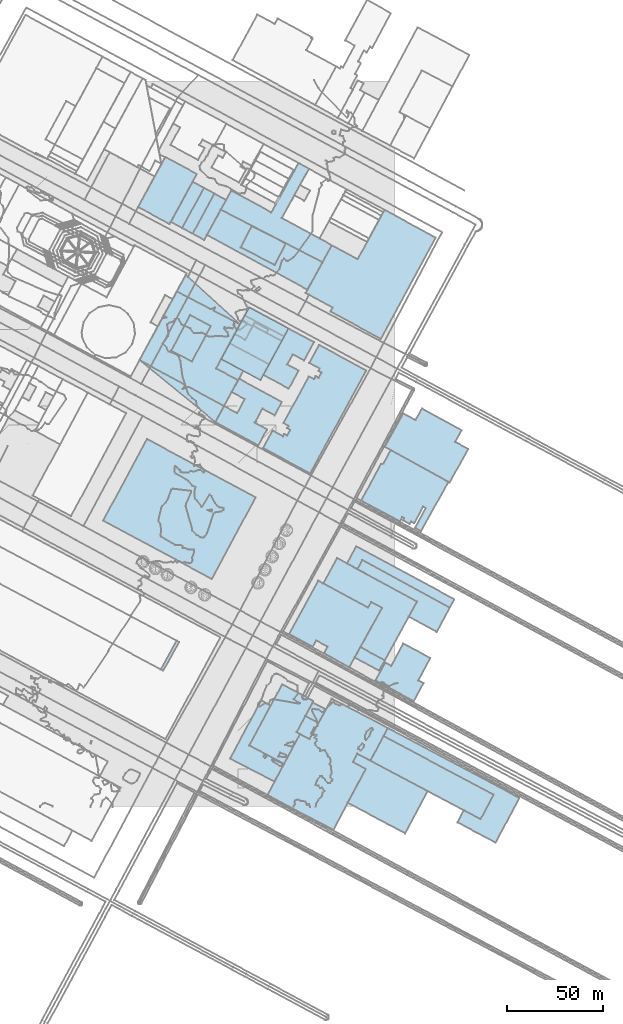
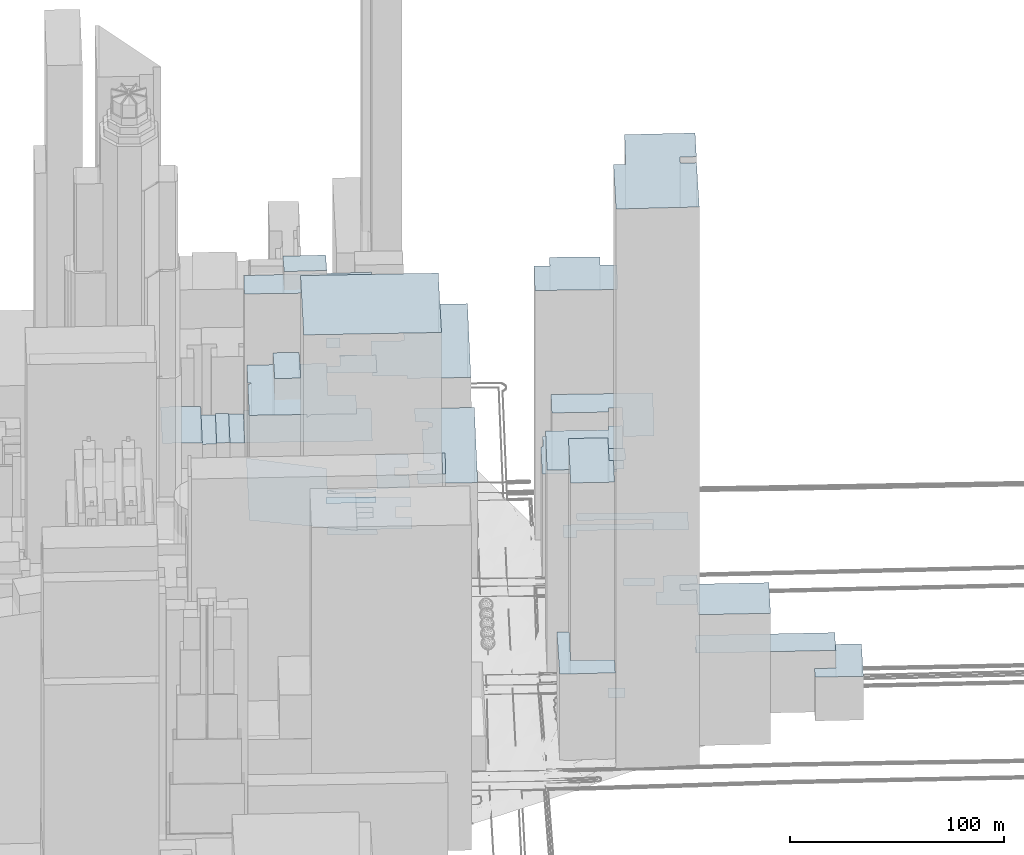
# Not in any storey, part 42 of 76: 39 roofs.
"""IFC2X3 model written with IfcOpenShell, lengths in metres."""

from ifc_helpers import new_model, si_unit, frame, origin_with_axes, place, context, subcontext, project, faceted_brep, element, save


model = new_model("IFC2X3")

# Units and contexts
model_context = context("Model", 3, precision=1e-05, world=origin_with_axes())
body_context = subcontext(model_context, "Body", "Model", "MODEL_VIEW")
ifc_project = project(units=[si_unit("AREAUNIT", "SQUARE_METRE"), si_unit("LENGTHUNIT", "METRE")], contexts=[model_context])

# Roofs
roof_1_placement = place(None, frame((366.2645429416, 36.6542156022, 20.5453743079), z_axis=(0.0, 0.0, 1.0), x_axis=(1.0, 0.0, 0.0)))
element("IfcRoof", 1, at=roof_1_placement, Name="Toiture 0", ShapeType="NOTDEFINED", context=body_context, shape_type="Brep", body=[
    faceted_brep([(2.2468139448, 4.2339315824, 25.0), (0.0, 0.0, 25.0), (57.6510256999, -30.6476367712, 25.0), (50.7770092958, -43.4731624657, 25.0), (41.9344578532, -38.7800531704, 25.0), (38.741565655, -45.1344526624, 25.0), (71.0847208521, -32.3451003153, 25.0), (58.6609342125, -55.7269742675, 25.0)], [[[0, 1, 2]], [[3, 4, 5]], [[6, 0, 2]], [[3, 5, 7]], [[7, 6, 2]], [[2, 3, 7]]]),
])
roof_2_placement = place(None, frame((351.223740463, 77.768312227, 19.2455414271), z_axis=(0.0, 0.0, 1.0), x_axis=(1.0, 0.0, 0.0)))
element("IfcRoof", 2, at=roof_2_placement, Name="Toiture 0", ShapeType="NOTDEFINED", context=body_context, shape_type="Brep", body=[
    faceted_brep([(2.9670376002, 5.4524630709, 45.0), (0.0, 0.0, 45.0), (12.6918312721, -6.868784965, 45.0), (15.6589919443, -1.4274175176, 45.0)], [[[0, 1, 2]], [[2, 3, 0]]]),
])
roof_3_placement = place(None, frame((362.0676322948, 65.7598579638, 18.6080020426), z_axis=(0.0, 0.0, 1.0), x_axis=(1.0, 0.0, 0.0)))
element("IfcRoof", 3, at=roof_3_placement, Name="Toiture 0", ShapeType="NOTDEFINED", context=body_context, shape_type="Brep", body=[
    faceted_brep([(5.0818940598, 9.4184075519, 38.0999984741), (0.0, 0.0, 38.0999984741), (20.0566144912, -10.8019749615, 38.0999984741), (25.0968062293, -1.4284483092, 38.0999984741), (22.3613697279, 0.0495845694, 38.0999984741), (28.6575999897, 11.7470203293, 38.0999984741), (14.5135056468, 19.3648949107, 38.0999984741), (8.2419351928, 7.7232700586, 38.0999984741)], [[[0, 1, 2]], [[2, 3, 4]], [[4, 5, 6]], [[7, 0, 2]], [[2, 4, 6]], [[6, 7, 2]]]),
])
roof_4_placement = place(None, frame((347.1381641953, 127.0369642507, 18.5508047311), z_axis=(0.0, 0.0, 1.0), x_axis=(1.0, 0.0, 0.0)))
element("IfcRoof", 4, at=roof_4_placement, Name="Toiture 0", ShapeType="NOTDEFINED", context=body_context, shape_type="Brep", body=[
    faceted_brep([(4.9095321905, 8.9945052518, 45.0), (0.0, 0.0, 45.0), (5.3954967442, -3.0124802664, 45.0), (8.0571999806, 1.8369054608, 45.0), (53.8061372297, -23.131939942, 45.0), (56.1693942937, -18.7523097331, 45.0)], [[[0, 1, 2]], [[3, 4, 5]], [[0, 2, 3]], [[3, 5, 0]]]),
])
roof_5_placement = place(None, frame((352.5336609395, 124.0244839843, 18.1637870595), z_axis=(0.0, 0.0, 1.0), x_axis=(1.0, 0.0, 0.0)))
element("IfcRoof", 5, at=roof_5_placement, Name="Toiture 0", ShapeType="NOTDEFINED", context=body_context, shape_type="Brep", body=[
    faceted_brep([(2.6617032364, 4.8493857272, 55.0), (0.0, 0.0, 55.0), (31.2631371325, -16.9997120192, 55.0), (26.9895697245, -24.7877841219, 55.0), (41.5765562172, -32.7446614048, 55.0), (48.4106404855, -20.1194596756, 55.0)], [[[0, 1, 2]], [[2, 3, 4]], [[5, 0, 2]], [[2, 4, 5]]]),
])
roof_6_placement = place(None, frame((334.7408311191, 116.6007819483, 18.3898649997), z_axis=(0.0, 0.0, 1.0), x_axis=(1.0, 0.0, 0.0)))
element("IfcRoof", 6, at=roof_6_placement, Name="Toiture 0", ShapeType="NOTDEFINED", context=body_context, shape_type="Brep", body=[
    faceted_brep([(7.2237486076, 13.24030801, 127.0), (0.0, 0.0, 127.0), (23.4383723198, -12.7055475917, 127.0), (30.6991136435, -12.7874983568, 127.0), (19.4499469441, -33.3800066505, 127.0), (32.1419012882, -40.259887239, 127.0), (25.0583062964, -9.7334756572, 127.0), (49.0559669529, -9.5760099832, 127.0)], [[[0, 1, 2]], [[3, 4, 5]], [[0, 2, 6]], [[3, 5, 7]], [[7, 0, 6]], [[6, 3, 7]]]),
])
roof_7_placement = place(None, frame((316.8661601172, 90.1024902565, 18.3898649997), z_axis=(0.0, 0.0, 1.0), x_axis=(1.0, 0.0, 0.0)))
element("IfcRoof", 7, at=roof_7_placement, Name="Toiture 0", ShapeType="NOTDEFINED", context=body_context, shape_type="Brep", body=[
    faceted_brep([(15.300279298, 27.9227073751, 116.6999969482), (0.0, 0.0, 116.6999969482), (12.2588560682, -6.6629415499, 116.6999969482), (20.1343500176, -6.6156371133, 116.6999969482), (18.1999973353, -10.1353758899, 116.6999969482), (31.5123618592, -17.3744372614, 116.6999969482), (48.5737846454, 13.710793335, 116.6999969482), (42.9329772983, 16.7648160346, 116.6999969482), (14.07724135, -3.3332932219, 116.6999969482), (41.3130433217, 13.7927441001, 116.6999969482)], [[[0, 1, 2]], [[3, 4, 5]], [[5, 6, 7]], [[0, 2, 8]], [[5, 7, 9]], [[9, 0, 8]], [[3, 5, 9]], [[9, 8, 3]]]),
])
roof_8_placement = place(None, frame((325.3175902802, 47.212952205, 19.8238031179), z_axis=(0.0, 0.0, 1.0), x_axis=(1.0, 0.0, 0.0)))
element("IfcRoof", 8, at=roof_8_placement, Name="Toiture 0", ShapeType="NOTDEFINED", context=body_context, shape_type="Brep", body=[
    faceted_brep([(3.893923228, 7.050867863, 8.0), (0.0, 0.0, 8.0), (6.8126112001, -3.6399257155, 8.0), (10.7830119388, 3.3674274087, 8.0)], [[[0, 1, 2]], [[2, 3, 0]]]),
])
roof_9_placement = place(None, frame((320.7317155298, 38.6885317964, 19.3320157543), z_axis=(0.0, 0.0, 1.0), x_axis=(1.0, 0.0, 0.0)))
element("IfcRoof", 9, at=roof_9_placement, Name="Toiture 0", ShapeType="NOTDEFINED", context=body_context, shape_type="Brep", body=[
    faceted_brep([(4.5858747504, 8.5244204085, 151.0), (0.0, 0.0, 151.0), (6.8210570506, -3.6398316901, 151.0), (11.3984859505, 4.884494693, 151.0)], [[[0, 1, 2]], [[2, 3, 0]]]),
])
roof_10_placement = place(None, frame((295.9848400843, 31.8056900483, 19.3320157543), z_axis=(0.0, 0.0, 1.0), x_axis=(1.0, 0.0, 0.0)))
element("IfcRoof", 10, at=roof_10_placement, Name="Toiture 0", ShapeType="NOTDEFINED", context=body_context, shape_type="Brep", body=[
    faceted_brep([(17.2118998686, 31.9639296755, 151.0), (0.0, 0.0, 151.0), (18.152605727, -9.6807885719, 151.0), (26.5646548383, 5.9159065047, 151.0), (24.7468754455, 6.8828417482, 151.0), (33.5466758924, 23.2501167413, 151.0)], [[[0, 1, 2]], [[2, 3, 4]], [[4, 5, 0]], [[0, 2, 4]]]),
])
roof_11_placement = place(None, frame((286.0454970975, 24.8510106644, 18.703520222), z_axis=(0.0, 0.0, 1.0), x_axis=(1.0, 0.0, 0.0)))
element("IfcRoof", 11, at=roof_11_placement, Name="Toiture 0", ShapeType="NOTDEFINED", context=body_context, shape_type="Brep", body=[
    faceted_brep([(0.0, 0.0, 50.0), (23.1269540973, -12.0431954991, 50.0), (28.0919487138, -2.7261091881, 50.0), (9.9393429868, 6.9546793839, 50.0), (21.1440946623, 27.7575168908, 50.0), (16.1055235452, 30.5632428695, 50.0)], [[[0, 1, 2]], [[3, 4, 5]], [[0, 2, 3]], [[3, 5, 0]]]),
])
roof_12_placement = place(None, frame((305.3985923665, 5.5918232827, 19.5472220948), z_axis=(0.0, 0.0, 1.0), x_axis=(1.0, 0.0, 0.0)))
element("IfcRoof", 12, at=roof_12_placement, Name="Toiture 0", ShapeType="NOTDEFINED", context=body_context, shape_type="Brep", body=[
    faceted_brep([(17.1509025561, 32.1297732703, 320.0), (0.0, 0.0, 320.0), (34.6180123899, -17.9933581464, 320.0), (51.5516846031, 13.93412623, 320.0), (44.841101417, 17.5086047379, 320.0), (47.1626007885, 21.8544235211, 320.0), (53.9919956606, 18.2258198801, 320.0), (63.1127645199, 35.296323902, 320.0), (33.8269836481, 50.6537947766, 320.0), (22.1541802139, 29.4568768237, 320.0)], [[[0, 1, 2]], [[2, 3, 4]], [[5, 6, 7]], [[7, 8, 9]], [[9, 0, 2]], [[5, 7, 9]], [[9, 2, 4]], [[4, 5, 9]]]),
])
roof_13_placement = place(None, frame((347.4572556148, 1.796092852, 20.3614833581), z_axis=(0.0, 0.0, 1.0), x_axis=(1.0, 0.0, 0.0)))
element("IfcRoof", 13, at=roof_13_placement, Name="Toiture 0", ShapeType="NOTDEFINED", context=body_context, shape_type="Brep", body=[
    faceted_brep([(9.4930213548, 17.7298566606, 74.8000030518), (0.0, 0.0, 74.8000030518), (30.0699170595, -15.9811361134, 74.8000030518), (41.8928147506, 6.0946882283, 74.8000030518), (5.1039375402, 25.6501539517, 74.8000030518), (2.7824381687, 21.3043351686, 74.8000030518)], [[[0, 1, 2]], [[2, 3, 4]], [[4, 5, 0]], [[0, 2, 4]]]),
])
roof_14_placement = place(None, frame((359.3905880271, 23.8176431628, 20.6359845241), z_axis=(0.0, 0.0, 1.0), x_axis=(1.0, 0.0, 0.0)))
element("IfcRoof", 14, at=roof_14_placement, Name="Toiture 0", ShapeType="NOTDEFINED", context=body_context, shape_type="Brep", body=[
    faceted_brep([(6.8739549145, 12.8365724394, 35.0), (0.0, 0.0, 35.0), (57.6509642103, -30.6365900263, 35.0), (64.5249806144, -17.8110643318, 35.0)], [[[0, 1, 2]], [[2, 3, 0]]]),
])
roof_15_placement = place(None, frame((249.6836035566, 71.5902685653, 39.4467245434), z_axis=(0.0, 0.0, 1.0), x_axis=(1.0, 0.0, 0.0)))
element("IfcRoof", 15, at=roof_15_placement, Name="Toiture 0", ShapeType="NOTDEFINED", context=body_context, shape_type="Brep", body=[
    faceted_brep([(8.3176822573, 15.0071034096, 128.0), (0.0, 0.0, 128.0), (1.2910926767, -0.6844212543, 128.0), (9.6089023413, 14.3115828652, 128.0)], [[[0, 1, 2]], [[2, 3, 0]]]),
])
roof_16_placement = place(None, frame((219.5112298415, 149.4213804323, 19.4237571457), z_axis=(0.0, 0.0, 1.0), x_axis=(1.0, 0.0, 0.0)))
element("IfcRoof", 16, at=roof_16_placement, Name="Toiture 0", ShapeType="NOTDEFINED", context=body_context, shape_type="Brep", body=[
    faceted_brep([(22.9281798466, 42.7328309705, 191.0), (0.0, 0.0, 191.0), (56.8882083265, -30.5132920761, 191.0), (79.8162954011, 12.2086158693, 191.0)], [[[0, 1, 2]], [[2, 3, 0]]]),
])
roof_17_placement = place(None, frame((238.5657352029, 233.4317503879, 16.8303387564), z_axis=(0.0, 0.0, 1.0), x_axis=(1.0, 0.0, 0.0)))
element("IfcRoof", 17, at=roof_17_placement, Name="Toiture 0", ShapeType="NOTDEFINED", context=body_context, shape_type="Brep", body=[
    faceted_brep([(24.1716147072, 44.6569637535, 30.0), (0.0, 0.0, 30.0), (39.6892356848, -32.423071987, 30.0), (54.2336192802, -5.5639508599, 30.0), (42.7234641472, 0.6192596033, 30.0), (52.5160379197, 18.7078011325, 30.0)], [[[0, 1, 2]], [[2, 3, 4]], [[4, 5, 0]], [[0, 2, 4]]]),
])
roof_18_placement = place(None, frame((238.5657352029, 233.4317503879, 16.8288003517), z_axis=(0.0, 0.0, 1.0), x_axis=(1.0, 0.0, 0.0)))
element("IfcRoof", 18, at=roof_18_placement, Name="Toiture 0", ShapeType="NOTDEFINED", context=body_context, shape_type="Brep", body=[
    faceted_brep([(11.841957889, 21.887094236, 90.0), (0.0, 0.0, 90.0), (23.8036133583, -12.9458392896, 90.0), (22.5444502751, -15.0033068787, 90.0), (25.6386092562, -13.9458941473, 90.0), (44.2262175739, -24.0546749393, 90.0), (51.6324175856, -10.5347354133, 90.0), (40.0549929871, -4.3745082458, 90.0), (52.5160379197, 18.7078011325, 90.0), (38.7491765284, 25.8639517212, 90.0), (39.5570742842, 27.5275912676, 90.0), (37.0929847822, 26.7328570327, 90.0), (19.5537404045, 35.9878752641, 90.0), (12.610114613, 23.3393253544, 90.0), (14.2581221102, 22.4481148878, 90.0)], [[[0, 1, 2]], [[2, 3, 4]], [[4, 5, 6]], [[7, 8, 9]], [[9, 10, 11]], [[11, 12, 13]], [[14, 0, 2]], [[2, 4, 6]], [[7, 9, 11]], [[11, 13, 14]], [[2, 6, 7]], [[7, 11, 14]], [[14, 2, 7]]]),
])
roof_19_placement = place(None, frame((255.1464477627, 238.3653204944, 18.4349327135), z_axis=(0.0, 0.0, 1.0), x_axis=(1.0, 0.0, 0.0)))
element("IfcRoof", 19, at=roof_19_placement, Name="Toiture 0", ShapeType="NOTDEFINED", context=body_context, shape_type="Brep", body=[
    faceted_brep([(9.8708329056, 18.6223246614, 100.5999984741), (0.0, 0.0, 100.5999984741), (10.8206467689, -5.6916724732, 100.5999984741), (20.6914610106, 12.9306667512, 100.5999984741)], [[[0, 1, 2]], [[2, 3, 0]]]),
])
roof_20_placement = place(None, frame((281.2891993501, 234.0510099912, 16.9743140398), z_axis=(0.0, 0.0, 1.0), x_axis=(1.0, 0.0, 0.0)))
element("IfcRoof", 20, at=roof_20_placement, Name="Toiture 0", ShapeType="NOTDEFINED", context=body_context, shape_type="Brep", body=[
    faceted_brep([(4.43774046, 8.1896087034, 12.0), (0.0, 0.0, 12.0), (20.548297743, -11.0296043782, 12.0), (24.9775825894, -2.8400815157, 12.0)], [[[0, 1, 2]], [[2, 3, 0]]]),
])
roof_21_placement = place(None, frame((288.3298169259, 247.0670920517, 18.7313016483), z_axis=(0.0, 0.0, 1.0), x_axis=(1.0, 0.0, 0.0)))
element("IfcRoof", 21, at=roof_21_placement, Name="Toiture 0", ShapeType="NOTDEFINED", context=body_context, shape_type="Brep", body=[
    faceted_brep([(3.7847676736, 6.9940706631, 101.0), (0.0, 0.0, 101.0), (5.5893839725, -2.9991613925, 101.0), (9.3741480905, 3.9949121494, 101.0)], [[[0, 1, 2]], [[2, 3, 0]]]),
])
roof_22_placement = place(None, frame((266.3530254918, 299.6136626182, 20.7337095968), z_axis=(0.0, 0.0, 1.0), x_axis=(1.0, 0.0, 0.0)))
element("IfcRoof", 22, at=roof_22_placement, Name="Toiture 0", ShapeType="NOTDEFINED", context=body_context, shape_type="Brep", body=[
    faceted_brep([(11.3880168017, 20.9825795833, 20.2999992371), (0.0, 0.0, 20.2999992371), (6.0824874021, -3.3043014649, 20.2999992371), (17.4959425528, 17.6674815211, 20.2999992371)], [[[0, 1, 2]], [[2, 3, 0]]]),
])
roof_23_placement = place(None, frame((273.8050706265, 299.0342517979, 19.0727612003), z_axis=(0.0, 0.0, 1.0), x_axis=(1.0, 0.0, 0.0)))
element("IfcRoof", 23, at=roof_23_placement, Name="Toiture 0", ShapeType="NOTDEFINED", context=body_context, shape_type="Brep", body=[
    faceted_brep([(12.77205858, 23.1858472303, 20.0), (0.0, 0.0, 20.0), (52.5953372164, -28.7420789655, 20.0), (65.4084536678, -5.4668426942, 20.0), (39.2593969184, 8.8281193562, 20.0), (53.4200569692, 34.5393207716, 20.0), (47.9405768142, 37.5286335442, 20.0), (33.7387369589, 11.728145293, 20.0)], [[[0, 1, 2]], [[2, 3, 4]], [[4, 5, 6]], [[7, 0, 2]], [[4, 6, 7]], [[7, 2, 4]]]),
])
roof_24_placement = place(None, frame((291.481800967, 292.4676192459, 19.6985343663), z_axis=(0.0, 0.0, 1.0), x_axis=(1.0, 0.0, 0.0)))
element("IfcRoof", 24, at=roof_24_placement, Name="Toiture 0", ShapeType="NOTDEFINED", context=body_context, shape_type="Brep", body=[
    faceted_brep([(5.7876459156, 11.1474308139, 115.0), (0.0, 0.0, 115.0), (17.8254281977, -9.1849936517, 115.0), (23.6378591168, 2.0071491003, 115.0)], [[[0, 1, 2]], [[2, 3, 0]]]),
])
roof_25_placement = place(None, frame((273.8050706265, 299.0342517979, 19.1231456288), z_axis=(0.0, 0.0, 1.0), x_axis=(1.0, 0.0, 0.0)))
element("IfcRoof", 25, at=roof_25_placement, Name="Toiture 0", ShapeType="NOTDEFINED", context=body_context, shape_type="Brep", body=[
    faceted_brep([(7.2580721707, 13.1851425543, 105.0), (0.0, 0.0, 105.0), (52.5953372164, -28.7420789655, 105.0), (60.4982423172, -14.3947384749, 105.0)], [[[0, 1, 2]], [[2, 3, 0]]]),
])
roof_26_placement = place(None, frame((325.5761584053, 268.583928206, 18.0179124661), z_axis=(0.0, 0.0, 1.0), x_axis=(1.0, 0.0, 0.0)))
element("IfcRoof", 26, at=roof_26_placement, Name="Toiture 0", ShapeType="NOTDEFINED", context=body_context, shape_type="Brep", body=[
    faceted_brep([(13.637365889, 24.9834808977, 59.5), (0.0, 0.0, 59.5), (14.076432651, -7.6409558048, 59.5), (12.9441609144, -9.7191640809, 59.5), (39.2536749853, -24.0010695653, 59.5), (68.012848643, 28.9476731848, 59.5), (41.1936839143, 43.5121951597, 59.5), (27.1697109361, 17.669281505, 59.5)], [[[0, 1, 2]], [[2, 3, 4]], [[4, 5, 6]], [[7, 0, 2]], [[2, 4, 6]], [[6, 7, 2]]]),
])
roof_27_placement = place(None, frame((297.9268132, 251.4975866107, 44.1625825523), z_axis=(0.0, 0.0, 1.0), x_axis=(1.0, 0.0, 0.0)))
element("IfcRoof", 27, at=roof_27_placement, Name="Toiture 0", ShapeType="NOTDEFINED", context=body_context, shape_type="Brep", body=[
    faceted_brep([(0.933852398, 1.7206194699, 64.0), (0.0, 0.0, 64.0), (7.1354708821, -3.8360285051, 64.0), (8.0608818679, -2.115506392, 64.0)], [[[0, 1, 2]], [[2, 3, 0]]]),
])
roof_28_placement = place(None, frame((293.6269824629, 256.8432308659, 18.9579737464), z_axis=(0.0, 0.0, 1.0), x_axis=(1.0, 0.0, 0.0)))
element("IfcRoof", 28, at=roof_28_placement, Name="Toiture 0", ShapeType="NOTDEFINED", context=body_context, shape_type="Brep", body=[
    faceted_brep([(2.2972956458, 4.2456016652, 4.0), (0.0, 0.0, 4.0), (20.5398148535, -11.0296681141, 4.0), (22.8372318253, -6.7951607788, 4.0)], [[[0, 1, 2]], [[2, 3, 0]]]),
])
roof_29_placement = place(None, frame((292.1145845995, 254.0611627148, 18.8063007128), z_axis=(0.0, 0.0, 1.0), x_axis=(1.0, 0.0, 0.0)))
element("IfcRoof", 29, at=roof_29_placement, Name="Toiture 0", ShapeType="NOTDEFINED", context=body_context, shape_type="Brep", body=[
    faceted_brep([(1.5123978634, 2.782068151, 12.0), (0.0, 0.0, 12.0), (5.5893804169, -2.9991585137, 12.0), (5.8122286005, -2.5635761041, 12.0), (20.7796774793, -10.6049936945, 12.0), (22.0522127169, -8.2475999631, 12.0)], [[[0, 1, 2]], [[3, 4, 5]], [[0, 2, 3]], [[3, 5, 0]]]),
])
roof_30_placement = place(None, frame((285.7269398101, 242.2406186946, 17.7274277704), z_axis=(0.0, 0.0, 1.0), x_axis=(1.0, 0.0, 0.0)))
element("IfcRoof", 30, at=roof_30_placement, Name="Toiture 0", ShapeType="NOTDEFINED", context=body_context, shape_type="Brep", body=[
    faceted_brep([(2.6028771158, 4.8264733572, 91.4000015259), (0.0, 0.0, 91.4000015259), (20.5398421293, -11.0296902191, 91.4000015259), (27.1673222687, 1.2155503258, 91.4000015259), (12.1998733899, 9.2569679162, 91.4000015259), (8.1922610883, 1.8273119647, 91.4000015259)], [[[0, 1, 2]], [[2, 3, 4]], [[5, 0, 2]], [[2, 4, 5]]]),
])
roof_31_placement = place(None, frame((281.2891993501, 234.0510099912, 16.9743140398), z_axis=(0.0, 0.0, 1.0), x_axis=(1.0, 0.0, 0.0)))
element("IfcRoof", 31, at=roof_31_placement, Name="Toiture 0", ShapeType="NOTDEFINED", context=body_context, shape_type="Brep", body=[
    faceted_brep([(14.6350787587, 27.0378225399, 6.0), (0.0, 0.0, 6.0), (20.548297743, -11.0296043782, 6.0), (35.1750149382, 15.9970600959, 6.0)], [[[0, 1, 2]], [[2, 3, 0]]]),
])
roof_32_placement = place(None, frame((303.3084719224, 225.7363797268, 17.1584864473), z_axis=(0.0, 0.0, 1.0), x_axis=(1.0, 0.0, 0.0)))
element("IfcRoof", 32, at=roof_32_placement, Name="Toiture 0", ShapeType="NOTDEFINED", context=body_context, shape_type="Brep", body=[
    faceted_brep([(0.0, 0.0, 29.8999996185), (13.3627175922, -7.2385258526, 29.8999996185), (18.4944225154, 2.2470477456, 29.8999996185), (15.4662305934, 10.7494256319, 29.8999996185), (21.3872638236, 7.5432057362, 29.8999996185), (26.5521917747, 17.0735816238, 29.8999996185), (12.598836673, 5.4424640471, 29.8999996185), (13.1557423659, 24.3116903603, 29.8999996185)], [[[0, 1, 2]], [[3, 4, 5]], [[0, 2, 6]], [[3, 5, 7]], [[7, 0, 6]], [[6, 3, 7]]]),
])
roof_33_placement = place(None, frame((278.2549708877, 201.0086784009, 15.6757471), z_axis=(0.0, 0.0, 1.0), x_axis=(1.0, 0.0, 0.0)))
element("IfcRoof", 33, at=roof_33_placement, Name="Toiture 0", ShapeType="NOTDEFINED", context=body_context, shape_type="Brep", body=[
    faceted_brep([(4.536981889, 8.3683970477, 31.6000003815), (0.0, 0.0, 31.6000003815), (22.4777859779, -12.1617877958, 31.6000003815), (27.0063104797, -3.7934751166, 31.6000003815), (20.6180660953, -0.3373262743, 31.6000003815), (24.609593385, 7.0255305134, 31.6000003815), (30.9978335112, 3.5693851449, 31.6000003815), (34.7826050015, 10.5634660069, 31.6000003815), (12.3131764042, 22.7364151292, 31.6000003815), (8.5200795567, 15.7311468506, 31.6000003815), (11.3669518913, 4.6731266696, 31.6000003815), (15.3500450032, 12.0358801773, 31.6000003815)], [[[0, 1, 2]], [[2, 3, 4]], [[5, 6, 7]], [[7, 8, 9]], [[10, 0, 2]], [[7, 9, 11]], [[11, 10, 2]], [[5, 7, 11]], [[11, 2, 4]], [[4, 5, 11]]]),
])
roof_34_placement = place(None, frame((303.2307671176, 187.4548822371, 16.0810150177), z_axis=(0.0, 0.0, 1.0), x_axis=(1.0, 0.0, 0.0)))
element("IfcRoof", 34, at=roof_34_placement, Name="Toiture 0", ShapeType="NOTDEFINED", context=body_context, shape_type="Brep", body=[
    faceted_brep([(4.9585038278, 9.1393762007, 57.0), (0.0, 0.0, 57.0), (24.6276355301, -13.3690300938, 57.0), (53.9161640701, 40.5627141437, 57.0), (29.2885192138, 53.9427467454, 57.0), (24.1811245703, 44.5462660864, 57.0), (29.6519839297, 41.5790599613, 57.0), (28.9577343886, 40.3053169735, 57.0), (30.5208380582, 39.4575443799, 57.0), (29.0497451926, 36.7536647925, 57.0), (27.4866411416, 37.6014376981, 57.0), (26.6272039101, 36.0149079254, 57.0), (23.9513070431, 37.4603469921, 57.0), (10.6788082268, 13.0251545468, 57.0), (13.3548402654, 11.5686098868, 57.0), (12.6853890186, 10.3395664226, 57.0), (14.2400565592, 9.4916920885, 57.0), (12.6699936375, 6.5868231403, 57.0), (11.140776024, 7.4238918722, 57.0), (10.4549602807, 6.1502490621, 57.0)], [[[0, 1, 2]], [[3, 4, 5]], [[6, 7, 8]], [[9, 10, 11]], [[11, 12, 13]], [[14, 15, 16]], [[17, 18, 19]], [[19, 0, 2]], [[3, 5, 6]], [[9, 11, 13]], [[17, 19, 2]], [[3, 6, 8]], [[9, 13, 14]], [[16, 17, 2]], [[2, 3, 8]], [[9, 14, 16]], [[16, 2, 8]], [[8, 9, 16]]]),
])
roof_35_placement = place(None, frame((354.5806057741, 159.9086306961, 17.7443665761), z_axis=(0.0, 0.0, 1.0), x_axis=(1.0, 0.0, 0.0)))
element("IfcRoof", 35, at=roof_35_placement, Name="Toiture 0", ShapeType="NOTDEFINED", context=body_context, shape_type="Brep", body=[
    faceted_brep([(10.3118314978, 19.1605049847, 59.5), (0.0, 0.0, 59.5), (20.2430773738, -10.8886351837, 59.5), (22.5353152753, -9.1077698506, 59.5), (21.8992428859, -10.3031231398, 59.5), (25.339599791, -12.150421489, 59.5), (26.0172271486, -10.8990723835, 59.5), (27.7331858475, -11.8227699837, 59.5), (32.40982227, -3.1307145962, 59.5), (33.7605140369, -3.8588264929, 59.5), (28.183275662, -14.2267162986, 59.5), (31.3347213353, -15.9108444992, 59.5), (45.6136333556, 9.8018659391, 59.5), (15.4436623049, 26.458968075, 59.5), (11.6676290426, 19.4427545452, 59.5), (21.4989884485, -8.5536292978, 59.5)], [[[0, 1, 2]], [[3, 4, 5]], [[6, 7, 8]], [[9, 10, 11]], [[12, 13, 14]], [[14, 0, 2]], [[3, 5, 6]], [[9, 11, 12]], [[14, 2, 15]], [[15, 3, 6]], [[8, 9, 12]], [[12, 14, 15]], [[15, 6, 8]], [[8, 12, 15]]]),
])
roof_36_placement = place(None, frame((366.8637568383, 188.1071389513, 17.7938249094), z_axis=(0.0, 0.0, 1.0), x_axis=(1.0, 0.0, 0.0)))
element("IfcRoof", 36, at=roof_36_placement, Name="Toiture 0", ShapeType="NOTDEFINED", context=body_context, shape_type="Brep", body=[
    faceted_brep([(9.6986507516, 17.4436317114, 143.0), (0.0, 0.0, 143.0), (33.9506416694, -18.7335846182, 143.0), (43.7072874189, -1.2004133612, 143.0), (36.8338707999, 2.5941615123, 143.0), (40.1741687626, 8.6061127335, 143.0), (19.4860618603, 20.0223811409, 143.0), (16.0878345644, 13.9098440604, 143.0)], [[[0, 1, 2]], [[2, 3, 4]], [[4, 5, 6]], [[7, 0, 2]], [[2, 4, 6]], [[6, 7, 2]]]),
])
roof_37_placement = place(None, frame((237.8104708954, 313.5923738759, 21.0660999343), z_axis=(0.0, 0.0, 1.0), x_axis=(1.0, 0.0, 0.0)))
element("IfcRoof", 37, at=roof_37_placement, Name="Toiture 0", ShapeType="NOTDEFINED", context=body_context, shape_type="Brep", body=[
    faceted_brep([(14.205605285, 26.2222779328, 21.3999996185), (0.0, 0.0, 21.3999996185), (16.4722872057, -8.9788194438, 21.3999996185), (30.7199253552, 17.2550822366, 21.3999996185)], [[[0, 1, 2]], [[2, 3, 0]]]),
])
roof_38_placement = place(None, frame((254.9357161, 305.8090938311, 21.0647084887), z_axis=(0.0, 0.0, 1.0), x_axis=(1.0, 0.0, 0.0)))
element("IfcRoof", 38, at=roof_38_placement, Name="Toiture 0", ShapeType="NOTDEFINED", context=body_context, shape_type="Brep", body=[
    faceted_brep([(11.3880384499, 20.9825618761, 19.6000003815), (0.0, 0.0, 19.6000003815), (5.9380887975, -3.2282750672, 19.6000003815), (17.3345562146, 17.7543942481, 19.6000003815)], [[[0, 1, 2]], [[2, 3, 0]]]),
])
roof_39_placement = place(None, frame((260.8738048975, 302.5808187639, 20.8605523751), z_axis=(0.0, 0.0, 1.0), x_axis=(1.0, 0.0, 0.0)))
element("IfcRoof", 39, at=roof_39_placement, Name="Toiture 0", ShapeType="NOTDEFINED", context=body_context, shape_type="Brep", body=[
    faceted_brep([(11.3964674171, 20.9826693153, 20.5), (0.0, 0.0, 20.5), (5.4792205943, -2.9671561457, 20.5), (16.867237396, 18.0154234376, 20.5)], [[[0, 1, 2]], [[2, 3, 0]]]),
])

save(model, "model.ifc")
